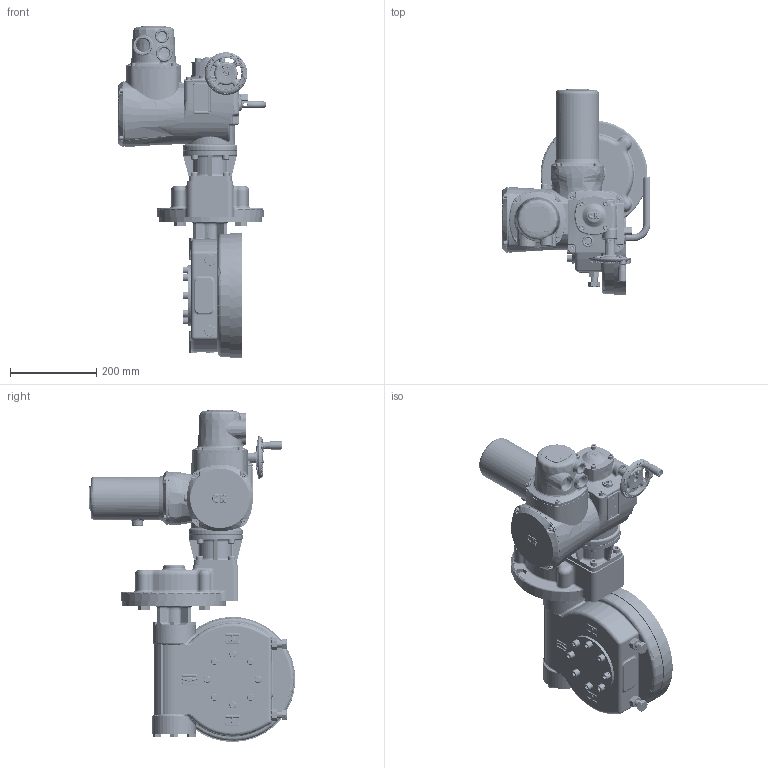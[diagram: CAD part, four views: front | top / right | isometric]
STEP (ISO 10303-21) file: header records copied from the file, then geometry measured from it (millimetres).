
FILE_DESCRIPTION(/* description */ ('Unknown'),/* implementation_level */ '2;1');
FILE_NAME(/* name */ 'A1W5RHSS00X-1',/* time_stamp */ '2018-03-27T11:46:57+02:00',/* author */ ('Unknown'),/* organization */ ('Unknown'),/* preprocessor_version */ 'ST-DEVELOPER v16.7',/* originating_system */ 'DEX',/* authorisation */ $);
FILE_SCHEMA (('AUTOMOTIVE_DESIGN {1 0 10303 214 3 1 1}'));
Products named in the file (8): A1W5RHSS00X-1; CK1-01; CK1-04-NRS; CK1-05; PUB-IW5IRLF25-MOTF10; CK0-07-S; CK0-20 Terminal Cover; F10- Non Thrust
Assembly tree (7 placements, depth 2):
  A1W5RHSS00X-1
    CK1-01
    CK1-04-NRS
    CK1-05
    PUB-IW5IRLF25-MOTF10
    CK0-07-S
    CK0-20 Terminal Cover
    F10- Non Thrust
Bounding box: 344.96 x 478.5 x 769.88 mm (x, y, z)
Volume: 20987364.7 mm3; surface area: 1128068.3 mm2
Topology: 11 solids, 40 shells, 6230 faces, 14898 edges, 9019 vertices
Faces by surface type: plane 2448, bspline 1932, cylinder 849, cone 410, torus 317, sphere 274
Full cylindrical faces by diameter (mm): 3 x2, 4 x2, 4.917 x4, 6 x4, 6.4 x1, 6.45 x4, 6.47 x4, 6.5 x4, 6.647 x1, 7 x2, 8 x6, 8.2 x1, 8.376 x4, 8.5 x6, 9 x4, 10 x26, 10.22 x4, 10.5 x7, 10.8 x4, 12 x1, 13 x10, 13.5 x1, 14 x9, 14.5 x4, 15.5 x1, 16 x31, 16.6 x8, 18 x8, 18.376 x1, 19 x1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
Entity records: 279126 total; most frequent: CARTESIAN_POINT 115015, ORIENTED_EDGE 28224, DIRECTION 19430, EDGE_CURVE 14112, VERTEX_POINT 8820, AXIS2_PLACEMENT_3D 7675, FACE_BOUND 7150, EDGE_LOOP 7116
